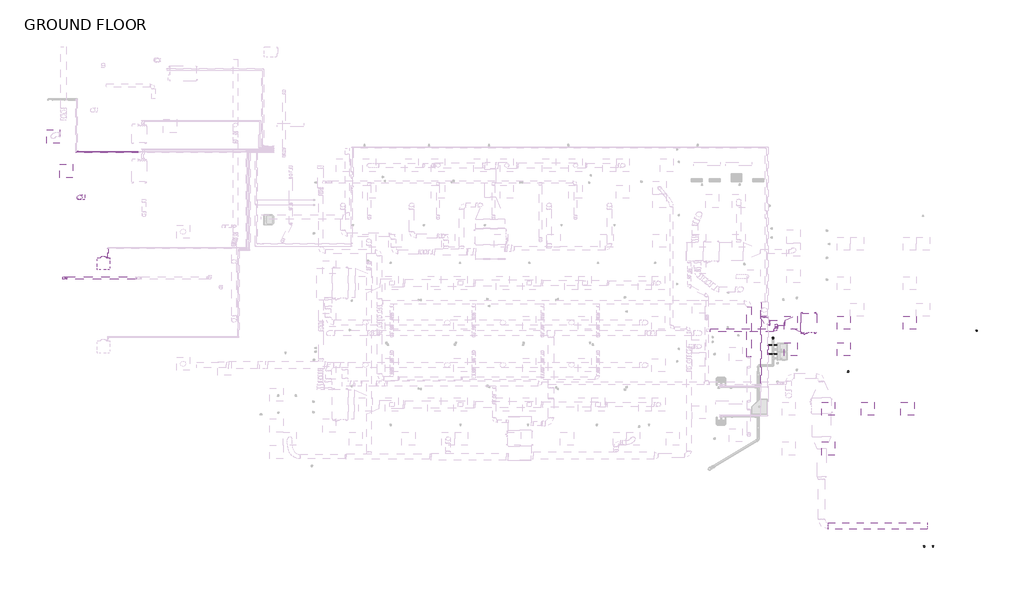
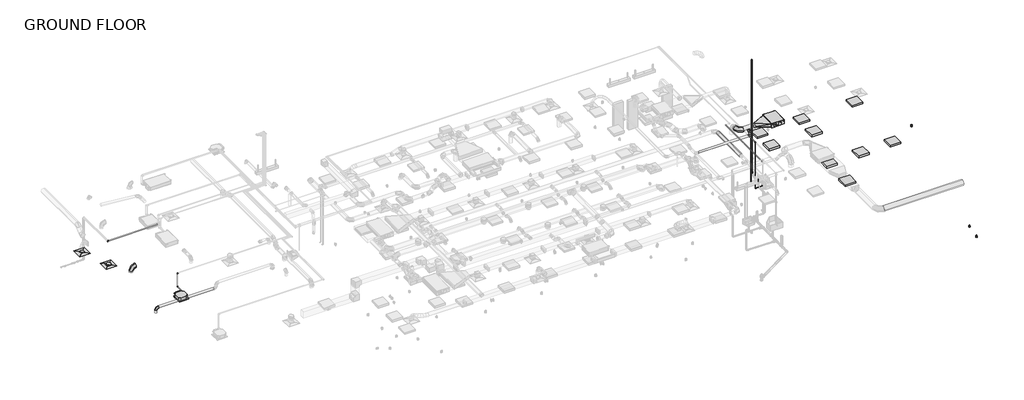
# One storey, part 9 of 20: 15 pipe fittings, 15 pipe segments, 9 duct segments, 9 light fixtures, 6 duct fittings, 4 proxies, 2 air terminals, 2 switching devices.
"""IFC4 building model written with IfcOpenShell, lengths in millimetres."""

from ifc_helpers import new_model, si_unit, point, frame, frame_2d, origin, place, context, project, spatial, circle_curve, trimmed, segment, composite_curve, outline, extrude, transform, mapped, element, save
from components import air_terminal_a1f6e78c, air_terminal_e9020785, mechanical_equipment_7e022f85, mechanical_equipment_2d84379e, duplex_receptacle_countertop_10251bba, rectangular_to_round_transition_angle_45_degree_daff1ed7, round_elbow_1_d_df495868, round_elbow_1_d_6fec3262, round_elbow_1_d_c80420c1, round_takeoff_standard_e4d44d96, troffer_corner_insert_2x2_3lamp_e67c7f8f, bend_pvc_sch_40_dwv_standard_7e7a7e15, elbow_generic_standard_6ceb1649, elbow_generic_standard_c06ac706, elbow_generic_standard_a088f956, elbow_generic_standard_339fed54, tee_generic_standard_d345b28c, transition_generic_standard_18b712a4

model = new_model("IFC4")

# Units and contexts
model_context = context("Model", 3, world=origin())
ifc_project = project(units=[si_unit("LENGTHUNIT", "METRE", prefix="MILLI")], contexts=[model_context])

# Site, building, storey
site = spatial("IfcSite", under=ifc_project)
building = spatial("IfcBuilding", under=site)
storey = spatial("IfcBuildingStorey", under=building, Name="GROUND FLOOR", Elevation=30480.0)

# Air terminals
placement = place(None, origin())
air_terminal_shape = air_terminal_a1f6e78c(model_context)
element("IfcAirTerminal", 1, ObjectType="Supply Diffuser - Rectangular Face Round Neck - Hosted : 24\"x24\" Face 10\" Neck - Hosted", at=placement, inside=storey, context=model_context, shape_type="MappedRepresentation", body=[
    mapped(air_terminal_shape, transform((-18995.0704607, 6554.1945005, 32715.2), x_axis=(-1.0, 0.0, 0.0), y_axis=(0.0, 1.0, 0.0), z_axis=(0.0, 0.0, -1.0))),
])
air_terminal_2_shape = air_terminal_e9020785(model_context)
element("IfcAirTerminal", 2, ObjectType="Supply Diffuser - Rectangular Face Round Neck - Hosted : 24\"x24\" Face 8\" Neck - Hosted", at=placement, inside=storey, context=model_context, shape_type="MappedRepresentation", body=[
    mapped(air_terminal_2_shape, transform((-19604.6704607, 8141.6945005, 32715.2), x_axis=(-1.0, 0.0, 0.0), y_axis=(0.0, 1.0, 0.0), z_axis=(0.0, 0.0, -1.0))),
])

# Proxies
mechanical_equipment_shape = mechanical_equipment_7e022f85(model_context)
element("IfcBuildingElementProxy", 3, Name="PEFY-P-NMAU-E_Medium_Static_Ducted : PEFY-P18NMAU-E", ObjectType="PEFY-P-NMAU-E_Medium_Static_Ducted : PEFY-P18NMAU-E", at=placement, inside=storey, context=model_context, shape_type="MappedRepresentation", body=[
    mapped(mechanical_equipment_shape, transform((15211.0308264, -469.4213942, 33686.75), x_axis=(0.0, -1.0, 0.0), y_axis=(1.0, 0.0, 0.0), z_axis=(0.0, 0.0, 1.0))),
])
mechanical_equipment_2_shape = mechanical_equipment_2d84379e(model_context)
element("IfcBuildingElementProxy", 4, Name="PLFY-P-NCMU-E_4-way_24x24 : PLFY-P12NCMU-E", ObjectType="PLFY-P-NCMU-E_4-way_24x24 : PLFY-P12NCMU-E", at=placement, inside=storey, context=model_context, shape_type="MappedRepresentation", body=[
    mapped(mechanical_equipment_2_shape, transform((-17276.6017107, 2201.5275529, 32715.2), x_axis=(1.0, 0.0, 0.0), y_axis=(0.0, -1.0, 0.0), z_axis=(0.0, 0.0, -1.0))),
])
duplex_receptacle_countertop_shape = duplex_receptacle_countertop_10251bba(model_context)
element("IfcBuildingElementProxy", 5, Name="Duplex Receptacle : Standard", ObjectType="Duplex Receptacle : Standard", at=placement, inside=storey, context=model_context, shape_type="MappedRepresentation", body=[
    mapped(duplex_receptacle_countertop_shape, transform((23025.6405908, -795.9304995, 30937.2), x_axis=(-1.0, 0.0, 0.0), y_axis=(0.0, 0.0, 1.0), z_axis=(0.0, 1.0, 0.0))),
])
element("IfcBuildingElementProxy", 6, Name="Duplex Receptacle : Standard", ObjectType="Duplex Receptacle : Standard", at=placement, inside=storey, context=model_context, shape_type="MappedRepresentation", body=[
    mapped(duplex_receptacle_countertop_shape, transform((21007.7586319, -10752.7304995, 30937.2), x_axis=(-1.0, 0.0, 0.0), y_axis=(0.0, 0.0, 1.0), z_axis=(0.0, 1.0, 0.0))),
])

# Duct fittings
rectangular_to_round_transition_angle_45_degree_shape = rectangular_to_round_transition_angle_45_degree_daff1ed7(model_context)
element("IfcDuctFitting", 7, ObjectType="Rectangular to Round Transition - Angle : 45 Degree", at=placement, inside=storey, context=model_context, shape_type="MappedRepresentation", body=[
    mapped(rectangular_to_round_transition_angle_45_degree_shape, transform((14893.5308264, -459.4091512, 33846.29375), x_axis=(-1.0, 0.0, 0.0), y_axis=(0.0, -1.0, 0.0), z_axis=(0.0, 0.0, 1.0))),
])
round_elbow_1_d_shape = round_elbow_1_d_df495868(model_context)
element("IfcDuctFitting", 8, ObjectType="Round Elbow : 1 D", at=placement, inside=storey, context=model_context, shape_type="MappedRepresentation", body=[
    mapped(round_elbow_1_d_shape, transform((-18385.4704607, 5334.9945005, 33121.6), x_axis=(0.0, 0.0, 1.0), y_axis=(1.0, 0.0, 0.0), z_axis=(0.0, 1.0, 0.0))),
])
round_elbow_1_d_2_shape = round_elbow_1_d_6fec3262(model_context)
element("IfcDuctFitting", 9, ObjectType="Round Elbow : 1 D", at=placement, inside=storey, context=model_context, shape_type="MappedRepresentation", body=[
    mapped(round_elbow_1_d_2_shape, transform((13229.5920393, -459.4091512, 33846.29375), x_axis=(0.0, -1.0, 0.0), y_axis=(1.0, 0.0, 0.0), z_axis=(0.0, 0.0, 1.0))),
])
round_elbow_1_d_3_shape = round_elbow_1_d_c80420c1(model_context)
element("IfcDuctFitting", 10, ObjectType="Round Elbow : 1 D", at=placement, inside=storey, context=model_context, shape_type="MappedRepresentation", body=[
    mapped(round_elbow_1_d_3_shape, transform((-19110.9579607, 1613.8945005, 33121.6), x_axis=(0.0, 0.0, 1.0), y_axis=(1.0, 0.0, 0.0), z_axis=(0.0, 1.0, 0.0))),
])
element("IfcDuctFitting", 11, ObjectType="Round Elbow : 1 D", at=placement, inside=storey, context=model_context, shape_type="MappedRepresentation", body=[
    mapped(round_elbow_1_d_3_shape, transform((13779.8120561, -800.4644888, 33602.9101562), x_axis=(1.0, 0.0, 0.0), y_axis=(0.0, 0.8139900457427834, 0.5808788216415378), z_axis=(0.0, -0.5808788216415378, 0.8139900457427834))),
])
round_takeoff_standard_shape = round_takeoff_standard_e4d44d96(model_context)
element("IfcDuctFitting", 12, ObjectType="Round Takeoff : Standard", at=placement, inside=storey, context=model_context, shape_type="MappedRepresentation", body=[
    mapped(round_takeoff_standard_shape, transform((13779.8120561, -562.785887, 33772.5221397), x_axis=(0.0, -0.8139900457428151, -0.5808788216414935), y_axis=(-1.0000000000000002, 0.0, 0.0), z_axis=(0.0, 0.5808788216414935, -0.8139900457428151))),
])

# Duct segments
element("IfcDuctSegment", 13, ObjectType="Taps / Short Radius", at=placement, inside=storey, context=model_context, shape_type="SweptSolid", body=[
    extrude(outline(composite_curve([segment(trimmed(circle_curve(frame_2d((-18385.4704607, 5334.9945005)), 114.3), [point((-18385.4704607, 5449.2945005))], [point((-18271.1704607, 5334.9945005))], False, "CARTESIAN"), True, "CONTINUOUS"), segment(trimmed(circle_curve(frame_2d((-18385.4704607, 5334.9945005)), 114.3), [point((-18271.1704607, 5334.9945005))], [point((-18385.4704607, 5220.6945005))], False, "CARTESIAN"), True, "CONTINUOUS"), segment(trimmed(circle_curve(frame_2d((-18385.4704607, 5334.9945005)), 114.3), [point((-18385.4704607, 5220.6945005))], [point((-18499.7704607, 5334.9945005))], False, "CARTESIAN"), True, "CONTINUOUS"), segment(trimmed(circle_curve(frame_2d((-18385.4704607, 5334.9945005)), 114.3), [point((-18499.7704607, 5334.9945005))], [point((-18385.4704607, 5449.2945005))], False, "CARTESIAN"), True, "CONTINUOUS")], self_intersect=False)), frame((0.0, 0.0, 32816.8), z_axis=(0.0, 0.0, 1.0), x_axis=(1.0, 0.0, 0.0)), (0.0, 0.0, 1.0), 76.2),
])
element("IfcDuctSegment", 14, ObjectType="Taps / Short Radius", at=placement, inside=storey, context=model_context, shape_type="SweptSolid", body=[
    extrude(outline(composite_curve([segment(trimmed(circle_curve(frame_2d((-19110.9579607, 1613.8945005)), 63.5), [point((-19110.9579607, 1550.3945005))], [point((-19174.4579607, 1613.8945005))], False, "CARTESIAN"), True, "CONTINUOUS"), segment(trimmed(circle_curve(frame_2d((-19110.9579607, 1613.8945005)), 63.5), [point((-19174.4579607, 1613.8945005))], [point((-19110.9579607, 1677.3945005))], False, "CARTESIAN"), True, "CONTINUOUS"), segment(trimmed(circle_curve(frame_2d((-19110.9579607, 1613.8945005)), 63.5), [point((-19110.9579607, 1677.3945005))], [point((-19047.4579607, 1613.8945005))], False, "CARTESIAN"), True, "CONTINUOUS"), segment(trimmed(circle_curve(frame_2d((-19110.9579607, 1613.8945005)), 63.5), [point((-19047.4579607, 1613.8945005))], [point((-19110.9579607, 1550.3945005))], False, "CARTESIAN"), True, "CONTINUOUS")], self_intersect=False)), frame((0.0, 0.0, 32816.8), z_axis=(0.0, 0.0, 1.0), x_axis=(1.0, 0.0, 0.0)), (0.0, 0.0, 1.0), 177.8),
])
element("IfcDuctSegment", 15, ObjectType="Taps / Short Radius", at=placement, inside=storey, context=model_context, shape_type="SweptSolid", body=[
    extrude(outline(composite_curve([segment(trimmed(circle_curve(frame_2d((1613.8945005, 33121.6)), 63.5), [point((1550.3945005, 33121.6))], [point((1613.8945005, 33185.1))], False, "CARTESIAN"), True, "CONTINUOUS"), segment(trimmed(circle_curve(frame_2d((1613.8945005, 33121.6)), 63.5), [point((1613.8945005, 33185.1))], [point((1677.3945005, 33121.6))], False, "CARTESIAN"), True, "CONTINUOUS"), segment(trimmed(circle_curve(frame_2d((1613.8945005, 33121.6)), 63.5), [point((1677.3945005, 33121.6))], [point((1613.8945005, 33058.1))], False, "CARTESIAN"), True, "CONTINUOUS"), segment(trimmed(circle_curve(frame_2d((1613.8945005, 33121.6)), 63.5), [point((1613.8945005, 33058.1))], [point((1550.3945005, 33121.6))], False, "CARTESIAN"), True, "CONTINUOUS")], self_intersect=False)), frame((-18983.9579607, 0.0, 0.0), z_axis=(1.0, 0.0, 0.0), x_axis=(0.0, 1.0, 0.0)), (0.0, 0.0, 1.0), 3200.4),
])
element("IfcDuctSegment", 16, ObjectType="Taps / Short Radius", at=placement, inside=storey, context=model_context, shape_type="SweptSolid", body=[
    extrude(outline(composite_curve([segment(trimmed(circle_curve(frame_2d((-9838.464426, 33750.25)), 152.4), [point((-9990.864426, 33750.25))], [point((-9838.464426, 33902.65))], False, "CARTESIAN"), True, "CONTINUOUS"), segment(trimmed(circle_curve(frame_2d((-9838.464426, 33750.25)), 152.4), [point((-9838.464426, 33902.65))], [point((-9686.064426, 33750.25))], False, "CARTESIAN"), True, "CONTINUOUS"), segment(trimmed(circle_curve(frame_2d((-9838.464426, 33750.25)), 152.4), [point((-9686.064426, 33750.25))], [point((-9838.464426, 33597.85))], False, "CARTESIAN"), True, "CONTINUOUS"), segment(trimmed(circle_curve(frame_2d((-9838.464426, 33750.25)), 152.4), [point((-9838.464426, 33597.85))], [point((-9990.864426, 33750.25))], False, "CARTESIAN"), True, "CONTINUOUS")], self_intersect=False)), frame((16171.5105962, 0.0, 0.0), z_axis=(1.0, 0.0, 0.0), x_axis=(0.0, 1.0, 0.0)), (0.0, 0.0, 1.0), 4572.0),
])
element("IfcDuctSegment", 17, ObjectType="Taps / Short Radius", at=placement, inside=storey, context=model_context, shape_type="SweptSolid", body=[
    extrude(outline(composite_curve([segment(trimmed(circle_curve(frame_2d((33528.0, 12507.2795393)), 101.6), [point((33528.0, 12608.8795393))], [point((33629.6, 12507.2795393))], False, "CARTESIAN"), True, "CONTINUOUS"), segment(trimmed(circle_curve(frame_2d((33528.0, 12507.2795393)), 101.6), [point((33629.6, 12507.2795393))], [point((33528.0, 12405.6795393))], False, "CARTESIAN"), True, "CONTINUOUS"), segment(trimmed(circle_curve(frame_2d((33528.0, 12507.2795393)), 101.6), [point((33528.0, 12405.6795393))], [point((33426.4, 12507.2795393))], False, "CARTESIAN"), True, "CONTINUOUS"), segment(trimmed(circle_curve(frame_2d((33528.0, 12507.2795393)), 101.6), [point((33426.4, 12507.2795393))], [point((33528.0, 12608.8795393))], False, "CARTESIAN"), True, "CONTINUOUS")], self_intersect=False)), frame((0.0, -2017.0523624, 0.0), z_axis=(0.0, 1.0, 0.0), x_axis=(0.0, 0.0, 1.0)), (0.0, 0.0, 1.0), 2307.1938554),
])
element("IfcDuctSegment", 18, ObjectType="Taps / Short Radius", at=placement, inside=storey, context=model_context, shape_type="SweptSolid", body=[
    extrude(outline(composite_curve([segment(trimmed(circle_curve(frame_2d((-459.4091512, 33846.29375)), 127.0), [point((-332.4091512, 33846.29375))], [point((-459.4091512, 33719.29375))], False, "CARTESIAN"), True, "CONTINUOUS"), segment(trimmed(circle_curve(frame_2d((-459.4091512, 33846.29375)), 127.0), [point((-459.4091512, 33719.29375))], [point((-586.4091512, 33846.29375))], False, "CARTESIAN"), True, "CONTINUOUS"), segment(trimmed(circle_curve(frame_2d((-459.4091512, 33846.29375)), 127.0), [point((-586.4091512, 33846.29375))], [point((-459.4091512, 33973.29375))], False, "CARTESIAN"), True, "CONTINUOUS"), segment(trimmed(circle_curve(frame_2d((-459.4091512, 33846.29375)), 127.0), [point((-459.4091512, 33973.29375))], [point((-332.4091512, 33846.29375))], False, "CARTESIAN"), True, "CONTINUOUS")], self_intersect=False)), frame((13483.5920393, 0.0, 0.0), z_axis=(1.0, 0.0, 0.0), x_axis=(0.0, 1.0, 0.0)), (0.0, 0.0, 1.0), 683.6679034),
])
element("IfcDuctSegment", 19, ObjectType="Taps / Short Radius", at=placement, inside=storey, context=model_context, shape_type="SweptSolid", body=[
    extrude(outline(composite_curve([segment(trimmed(circle_curve(frame_2d((33846.29375, 13229.5920393)), 127.0), [point((33846.29375, 13102.5920393))], [point((33719.29375, 13229.5920393))], False, "CARTESIAN"), True, "CONTINUOUS"), segment(trimmed(circle_curve(frame_2d((33846.29375, 13229.5920393)), 127.0), [point((33719.29375, 13229.5920393))], [point((33846.29375, 13356.5920393))], False, "CARTESIAN"), True, "CONTINUOUS"), segment(trimmed(circle_curve(frame_2d((33846.29375, 13229.5920393)), 127.0), [point((33846.29375, 13356.5920393))], [point((33973.29375, 13229.5920393))], False, "CARTESIAN"), True, "CONTINUOUS"), segment(trimmed(circle_curve(frame_2d((33846.29375, 13229.5920393)), 127.0), [point((33973.29375, 13229.5920393))], [point((33846.29375, 13102.5920393))], False, "CARTESIAN"), True, "CONTINUOUS")], self_intersect=False)), frame((0.0, -205.4091512, 0.0), z_axis=(0.0, 1.0, 0.0), x_axis=(0.0, 0.0, 1.0)), (0.0, 0.0, 1.0), 85.7536517),
])
element("IfcDuctSegment", 20, ObjectType="Taps / Short Radius", at=placement, inside=storey, context=model_context, shape_type="SweptSolid", body=[
    extrude(outline(composite_curve([segment(trimmed(circle_curve(frame_2d((-800.4644888, 33602.9101562)), 63.5), [point((-736.9644888, 33602.9101562))], [point((-800.4644888, 33539.4101562))], False, "CARTESIAN"), True, "CONTINUOUS"), segment(trimmed(circle_curve(frame_2d((-800.4644888, 33602.9101562)), 63.5), [point((-800.4644888, 33539.4101562))], [point((-863.9644888, 33602.9101562))], False, "CARTESIAN"), True, "CONTINUOUS"), segment(trimmed(circle_curve(frame_2d((-800.4644888, 33602.9101562)), 63.5), [point((-863.9644888, 33602.9101562))], [point((-800.4644888, 33666.4101562))], False, "CARTESIAN"), True, "CONTINUOUS"), segment(trimmed(circle_curve(frame_2d((-800.4644888, 33602.9101562)), 63.5), [point((-800.4644888, 33666.4101562))], [point((-736.9644888, 33602.9101562))], False, "CARTESIAN"), True, "CONTINUOUS")], self_intersect=False)), frame((10725.6577502, 0.0, 0.0), z_axis=(1.0, 0.0, 0.0), x_axis=(0.0, 1.0, 0.0)), (0.0, 0.0, 1.0), 2927.1543058),
])
element("IfcDuctSegment", 21, ObjectType="Taps / Short Radius", at=placement, inside=storey, context=model_context, shape_type="SweptSolid", body=[
    extrude(outline(composite_curve([segment(trimmed(circle_curve(frame_2d((0.0, -63.5)), 63.5), [point((-63.5, -63.5))], [point((0.0, 0.0))], False, "CARTESIAN"), True, "CONTINUOUS"), segment(trimmed(circle_curve(frame_2d((0.0, -63.5)), 63.5), [point((0.0, 0.0))], [point((63.5, -63.5))], False, "CARTESIAN"), True, "CONTINUOUS"), segment(trimmed(circle_curve(frame_2d((0.0, -63.5)), 63.5), [point((63.5, -63.5))], [point((0.0, -127.0))], False, "CARTESIAN"), True, "CONTINUOUS"), segment(trimmed(circle_curve(frame_2d((0.0, -63.5)), 63.5), [point((0.0, -127.0))], [point((-63.5, -63.5))], False, "CARTESIAN"), True, "CONTINUOUS")], self_intersect=False)), frame((13779.8120561, -660.2019478, 33624.9933987), z_axis=(0.0, 0.8139900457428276, 0.5808788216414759), x_axis=(1.0, 0.0, 0.0)), (0.0, 0.0, 1.0), 63.392025),
])

# Light fixtures
troffer_corner_insert_2x2_3lamp_shape = troffer_corner_insert_2x2_3lamp_e67c7f8f(model_context)
element("IfcLightFixture", 22, ObjectType="Troffer Corner Insert : 2x2 3Lamp", at=placement, inside=storey, context=model_context, shape_type="MappedRepresentation", body=[
    mapped(troffer_corner_insert_2x2_3lamp_shape, transform((14448.7920393, -457.7929995, 30784.8), x_axis=(1.0, 0.0, 0.0), y_axis=(0.0, 1.0, 0.0), z_axis=(0.0, 0.0, 1.0))),
])
element("IfcLightFixture", 23, ObjectType="Troffer Corner Insert : 2x2 3Lamp", at=placement, inside=storey, context=model_context, shape_type="MappedRepresentation", body=[
    mapped(troffer_corner_insert_2x2_3lamp_shape, transform((16887.1920393, -457.7929995, 30784.8), x_axis=(1.0, 0.0, 0.0), y_axis=(0.0, 1.0, 0.0), z_axis=(0.0, 0.0, 1.0))),
])
element("IfcLightFixture", 24, ObjectType="Troffer Corner Insert : 2x2 3Lamp", at=placement, inside=storey, context=model_context, shape_type="MappedRepresentation", body=[
    mapped(troffer_corner_insert_2x2_3lamp_shape, transform((19935.1920393, -457.7929995, 30784.8), x_axis=(1.0, 0.0, 0.0), y_axis=(0.0, 1.0, 0.0), z_axis=(0.0, 0.0, 1.0))),
])
element("IfcLightFixture", 25, ObjectType="Troffer Corner Insert : 2x2 3Lamp", at=placement, inside=storey, context=model_context, shape_type="MappedRepresentation", body=[
    mapped(troffer_corner_insert_2x2_3lamp_shape, transform((14448.7920393, -1676.9929995, 30784.8), x_axis=(1.0, 0.0, 0.0), y_axis=(0.0, 1.0, 0.0), z_axis=(0.0, 0.0, 1.0))),
])
element("IfcLightFixture", 26, ObjectType="Troffer Corner Insert : 2x2 3Lamp", at=placement, inside=storey, context=model_context, shape_type="MappedRepresentation", body=[
    mapped(troffer_corner_insert_2x2_3lamp_shape, transform((16887.1920393, -1676.9929995, 30784.8), x_axis=(1.0, 0.0, 0.0), y_axis=(0.0, 1.0, 0.0), z_axis=(0.0, 0.0, 1.0))),
])
element("IfcLightFixture", 27, ObjectType="Troffer Corner Insert : 2x2 3Lamp", at=placement, inside=storey, context=model_context, shape_type="MappedRepresentation", body=[
    mapped(troffer_corner_insert_2x2_3lamp_shape, transform((16174.4045393, -4424.9554995, 30784.8), x_axis=(1.0, 0.0, 0.0), y_axis=(0.0, 1.0, 0.0), z_axis=(0.0, 0.0, 1.0))),
])
element("IfcLightFixture", 28, ObjectType="Troffer Corner Insert : 2x2 3Lamp", at=placement, inside=storey, context=model_context, shape_type="MappedRepresentation", body=[
    mapped(troffer_corner_insert_2x2_3lamp_shape, transform((16174.4045393, -6253.7554995, 30784.8), x_axis=(1.0, 0.0, 0.0), y_axis=(0.0, 1.0, 0.0), z_axis=(0.0, 0.0, 1.0))),
])
element("IfcLightFixture", 29, ObjectType="Troffer Corner Insert : 2x2 3Lamp", at=placement, inside=storey, context=model_context, shape_type="MappedRepresentation", body=[
    mapped(troffer_corner_insert_2x2_3lamp_shape, transform((18003.2045393, -4424.9554995, 30784.8), x_axis=(1.0, 0.0, 0.0), y_axis=(0.0, 1.0, 0.0), z_axis=(0.0, 0.0, 1.0))),
])
element("IfcLightFixture", 30, ObjectType="Troffer Corner Insert : 2x2 3Lamp", at=placement, inside=storey, context=model_context, shape_type="MappedRepresentation", body=[
    mapped(troffer_corner_insert_2x2_3lamp_shape, transform((19832.0045393, -4424.9554995, 30784.8), x_axis=(1.0, 0.0, 0.0), y_axis=(0.0, 1.0, 0.0), z_axis=(0.0, 0.0, 1.0))),
])

# Pipe fittings
bend_pvc_sch_40_dwv_standard_shape = bend_pvc_sch_40_dwv_standard_7e7a7e15(model_context)
element("IfcPipeFitting", 31, ObjectType="Bend - PVC - Sch 40 - DWV : Standard", at=placement, inside=storey, context=model_context, shape_type="MappedRepresentation", body=[
    mapped(bend_pvc_sch_40_dwv_standard_shape, transform((13624.8795393, -1146.9148781, 31598.3359555), x_axis=(0.0, 0.8531356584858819, 0.5216891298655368), y_axis=(0.0, -0.5216891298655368, 0.8531356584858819), z_axis=(1.0, 0.0, 0.0))),
])
elbow_generic_standard_shape = elbow_generic_standard_6ceb1649(model_context)
element("IfcPipeFitting", 32, ObjectType="Elbow - Generic : Standard", at=placement, inside=storey, context=model_context, shape_type="MappedRepresentation", body=[
    mapped(elbow_generic_standard_shape, transform((13383.5569177, -1891.3054995, 31150.71875), x_axis=(0.0, 0.0, -1.0), y_axis=(1.0, 0.0, 0.0), z_axis=(0.0, -1.0, 0.0))),
])
element("IfcPipeFitting", 33, ObjectType="Elbow - Generic : Standard", at=placement, inside=storey, context=model_context, shape_type="MappedRepresentation", body=[
    mapped(elbow_generic_standard_shape, transform((13789.9797527, -1484.9054995, 31303.11875), x_axis=(-1.0, 0.0, 0.0), y_axis=(0.0, 0.0, -1.0), z_axis=(0.0, -1.0, 0.0))),
])
element("IfcPipeFitting", 34, ObjectType="Elbow - Generic : Standard", at=placement, inside=storey, context=model_context, shape_type="MappedRepresentation", body=[
    mapped(elbow_generic_standard_shape, transform((13383.5569177, -1484.9054995, 31150.71875), x_axis=(0.0, 0.0, -1.0), y_axis=(1.0, 0.0, 0.0), z_axis=(0.0, -1.0, 0.0))),
])
element("IfcPipeFitting", 35, ObjectType="Elbow - Generic : Standard", at=placement, inside=storey, context=model_context, shape_type="MappedRepresentation", body=[
    mapped(elbow_generic_standard_shape, transform((13789.9797527, -1484.9054995, 31150.71875), x_axis=(0.0, 0.0, -1.0), y_axis=(-1.0, 0.0, 0.0), z_axis=(0.0, 1.0, 0.0))),
])
elbow_generic_standard_2_shape = elbow_generic_standard_c06ac706(model_context)
element("IfcPipeFitting", 36, ObjectType="Elbow - Generic : Standard", at=placement, inside=storey, context=model_context, shape_type="MappedRepresentation", body=[
    mapped(elbow_generic_standard_2_shape, transform((-17078.1642107, 2984.2674809, 32865.2187602), x_axis=(0.0, 1.0, 0.0), y_axis=(0.0, 0.0, 1.0), z_axis=(1.0, 0.0, 0.0))),
])
element("IfcPipeFitting", 37, ObjectType="Elbow - Generic : Standard", at=placement, inside=storey, context=model_context, shape_type="MappedRepresentation", body=[
    mapped(elbow_generic_standard_2_shape, transform((-17078.1642107, 2984.2674809, 33680.4), x_axis=(0.0, 0.0, 1.0), y_axis=(1.0, 0.0, 0.0), z_axis=(0.0, 1.0, 0.0))),
])
element("IfcPipeFitting", 38, ObjectType="Elbow - Generic : Standard", at=placement, inside=storey, context=model_context, shape_type="MappedRepresentation", body=[
    mapped(elbow_generic_standard_2_shape, transform((-18495.0079607, 7460.2718518, 33436.8475147), x_axis=(0.0, -1.0, 0.0), y_axis=(1.0, 0.0, 0.0), z_axis=(0.0, 0.0, 1.0))),
])
element("IfcPipeFitting", 39, ObjectType="Elbow - Generic : Standard", at=placement, inside=storey, context=model_context, shape_type="MappedRepresentation", body=[
    mapped(elbow_generic_standard_2_shape, transform((-18552.1579607, 7415.8218518, 33436.8475147), x_axis=(0.0, -1.0, 0.0), y_axis=(1.0, 0.0, 0.0), z_axis=(0.0, 0.0, 1.0))),
])
elbow_generic_standard_3_shape = elbow_generic_standard_a088f956(model_context)
element("IfcPipeFitting", 40, ObjectType="Elbow - Generic : Standard", at=placement, inside=storey, context=model_context, shape_type="MappedRepresentation", body=[
    mapped(elbow_generic_standard_3_shape, transform((-17074.9892107, 3013.8265677, 33680.4), x_axis=(0.0, 0.0, 1.0), y_axis=(1.0, 0.0, 0.0), z_axis=(0.0, 1.0, 0.0))),
])
elbow_generic_standard_4_shape = elbow_generic_standard_339fed54(model_context)
element("IfcPipeFitting", 41, ObjectType="Elbow - Generic : Standard", at=placement, inside=storey, context=model_context, shape_type="MappedRepresentation", body=[
    mapped(elbow_generic_standard_4_shape, transform((-17074.9892107, 3013.8265677, 32835.85), x_axis=(0.0, 0.9999999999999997, -2.6880093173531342e-08), y_axis=(0.0, 2.6880093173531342e-08, 0.9999999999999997), z_axis=(1.0, 0.0, 0.0))),
])
tee_generic_standard_shape = tee_generic_standard_d345b28c(model_context)
element("IfcPipeFitting", 42, ObjectType="Tee - Generic : Standard", at=placement, inside=storey, context=model_context, shape_type="MappedRepresentation", body=[
    mapped(tee_generic_standard_shape, transform((13383.5569177, -1891.3054995, 33978.2831664), x_axis=(0.0, -1.0, 0.0), y_axis=(0.0, 0.0, 1.0), z_axis=(-1.0, 0.0, 0.0))),
])
element("IfcPipeFitting", 43, ObjectType="Tee - Generic : Standard", at=placement, inside=storey, context=model_context, shape_type="MappedRepresentation", body=[
    mapped(tee_generic_standard_shape, transform((13383.5569177, -1484.9054995, 33978.2831664), x_axis=(0.0, -1.0, 0.0), y_axis=(0.0, 0.0, 1.0), z_axis=(-1.0, 0.0, 0.0))),
])
transition_generic_standard_shape = transition_generic_standard_18b712a4(model_context)
element("IfcPipeFitting", 44, ObjectType="Transition - Generic : Standard", at=placement, inside=storey, context=model_context, shape_type="MappedRepresentation", body=[
    mapped(transition_generic_standard_shape, transform((13383.5569177, -1891.3054995, 33951.2956664), x_axis=(0.0, 0.0, -1.0), y_axis=(0.0, 1.0, 0.0), z_axis=(1.0, 0.0, 0.0))),
])
element("IfcPipeFitting", 45, ObjectType="Transition - Generic : Standard", at=placement, inside=storey, context=model_context, shape_type="MappedRepresentation", body=[
    mapped(transition_generic_standard_shape, transform((13383.5569177, -1484.9054995, 33951.2956664), x_axis=(0.0, 0.0, -1.0), y_axis=(0.0, 1.0, 0.0), z_axis=(1.0, 0.0, 0.0))),
])

# Pipe segments
element("IfcPipeSegment", 46, ObjectType="Copper Tubing", at=placement, inside=storey, context=model_context, shape_type="SweptSolid", body=[
    extrude(outline(composite_curve([segment(trimmed(circle_curve(frame_2d((32835.8500102, -17074.9892107)), 7.9375), [point((32835.8500102, -17067.0517107))], [point((32843.7875102, -17074.9892107))], False, "CARTESIAN"), True, "CONTINUOUS"), segment(trimmed(circle_curve(frame_2d((32835.8500102, -17074.9892107)), 7.9375), [point((32843.7875102, -17074.9892107))], [point((32835.8500102, -17082.9267107))], False, "CARTESIAN"), True, "CONTINUOUS"), segment(trimmed(circle_curve(frame_2d((32835.8500102, -17074.9892107)), 7.9375), [point((32835.8500102, -17082.9267107))], [point((32827.9125102, -17074.9892107))], False, "CARTESIAN"), True, "CONTINUOUS"), segment(trimmed(circle_curve(frame_2d((32835.8500102, -17074.9892107)), 7.9375), [point((32827.9125102, -17074.9892107))], [point((32835.8500102, -17067.0517107))], False, "CARTESIAN"), True, "CONTINUOUS")], self_intersect=False)), frame((0.0, 2555.1048442, 0.0), z_axis=(0.0, 1.0, 0.0), x_axis=(0.0, 0.0, 1.0)), (0.0, 0.0, 1.0), 444.4342232),
])
element("IfcPipeSegment", 47, ObjectType="Copper Tubing", at=placement, inside=storey, context=model_context, shape_type="SweptSolid", body=[
    extrude(outline(composite_curve([segment(trimmed(circle_curve(frame_2d((-17074.9892107, 3013.8265677)), 7.9375), [point((-17082.9267107, 3013.8265677))], [point((-17074.9892107, 3021.7640677))], False, "CARTESIAN"), True, "CONTINUOUS"), segment(trimmed(circle_curve(frame_2d((-17074.9892107, 3013.8265677)), 7.9375), [point((-17074.9892107, 3021.7640677))], [point((-17067.0517107, 3013.8265677))], False, "CARTESIAN"), True, "CONTINUOUS"), segment(trimmed(circle_curve(frame_2d((-17074.9892107, 3013.8265677)), 7.9375), [point((-17067.0517107, 3013.8265677))], [point((-17074.9892107, 3005.8890677))], False, "CARTESIAN"), True, "CONTINUOUS"), segment(trimmed(circle_curve(frame_2d((-17074.9892107, 3013.8265677)), 7.9375), [point((-17074.9892107, 3005.8890677))], [point((-17082.9267107, 3013.8265677))], False, "CARTESIAN"), True, "CONTINUOUS")], self_intersect=False)), frame((0.0, 0.0, 32850.1375004), z_axis=(0.0, 0.0, 1.0), x_axis=(1.0, 0.0, 0.0)), (0.0, 0.0, 1.0), 815.9749996),
])
element("IfcPipeSegment", 48, ObjectType="Copper Tubing", at=placement, inside=storey, context=model_context, shape_type="SweptSolid", body=[
    extrude(outline(composite_curve([segment(trimmed(circle_curve(frame_2d((32865.2187602, -17078.1642107)), 14.2875), [point((32865.2187602, -17063.8767107))], [point((32879.5062602, -17078.1642107))], False, "CARTESIAN"), True, "CONTINUOUS"), segment(trimmed(circle_curve(frame_2d((32865.2187602, -17078.1642107)), 14.2875), [point((32879.5062602, -17078.1642107))], [point((32865.2187602, -17092.4517107))], False, "CARTESIAN"), True, "CONTINUOUS"), segment(trimmed(circle_curve(frame_2d((32865.2187602, -17078.1642107)), 14.2875), [point((32865.2187602, -17092.4517107))], [point((32850.9312602, -17078.1642107))], False, "CARTESIAN"), True, "CONTINUOUS"), segment(trimmed(circle_curve(frame_2d((32865.2187602, -17078.1642107)), 14.2875), [point((32850.9312602, -17078.1642107))], [point((32865.2187602, -17063.8767107))], False, "CARTESIAN"), True, "CONTINUOUS")], self_intersect=False)), frame((0.0, 2555.1048442, 0.0), z_axis=(0.0, 1.0, 0.0), x_axis=(0.0, 0.0, 1.0)), (0.0, 0.0, 1.0), 408.5251368),
])
element("IfcPipeSegment", 49, ObjectType="Copper Tubing", at=placement, inside=storey, context=model_context, shape_type="SweptSolid", body=[
    extrude(outline(composite_curve([segment(trimmed(circle_curve(frame_2d((-17078.1642107, 2984.2674809)), 14.2875), [point((-17092.4517107, 2984.2674809))], [point((-17078.1642107, 2998.5549809))], False, "CARTESIAN"), True, "CONTINUOUS"), segment(trimmed(circle_curve(frame_2d((-17078.1642107, 2984.2674809)), 14.2875), [point((-17078.1642107, 2998.5549809))], [point((-17063.8767107, 2984.2674809))], False, "CARTESIAN"), True, "CONTINUOUS"), segment(trimmed(circle_curve(frame_2d((-17078.1642107, 2984.2674809)), 14.2875), [point((-17063.8767107, 2984.2674809))], [point((-17078.1642107, 2969.9799809))], False, "CARTESIAN"), True, "CONTINUOUS"), segment(trimmed(circle_curve(frame_2d((-17078.1642107, 2984.2674809)), 14.2875), [point((-17078.1642107, 2969.9799809))], [point((-17092.4517107, 2984.2674809))], False, "CARTESIAN"), True, "CONTINUOUS")], self_intersect=False)), frame((0.0, 0.0, 32885.8562602), z_axis=(0.0, 0.0, 1.0), x_axis=(1.0, 0.0, 0.0)), (0.0, 0.0, 1.0), 773.9062398),
])
element("IfcPipeSegment", 50, ObjectType="Copper Tubing", at=placement, inside=storey, context=model_context, shape_type="SweptSolid", body=[
    extrude(outline(composite_curve([segment(trimmed(circle_curve(frame_2d((7460.2718518, 33436.8475147)), 14.2875), [point((7445.9843518, 33436.8475147))], [point((7460.2718518, 33451.1350147))], False, "CARTESIAN"), True, "CONTINUOUS"), segment(trimmed(circle_curve(frame_2d((7460.2718518, 33436.8475147)), 14.2875), [point((7460.2718518, 33451.1350147))], [point((7474.5593518, 33436.8475147))], False, "CARTESIAN"), True, "CONTINUOUS"), segment(trimmed(circle_curve(frame_2d((7460.2718518, 33436.8475147)), 14.2875), [point((7474.5593518, 33436.8475147))], [point((7460.2718518, 33422.5600147))], False, "CARTESIAN"), True, "CONTINUOUS"), segment(trimmed(circle_curve(frame_2d((7460.2718518, 33436.8475147)), 14.2875), [point((7460.2718518, 33422.5600147))], [point((7445.9843518, 33436.8475147))], False, "CARTESIAN"), True, "CONTINUOUS")], self_intersect=False)), frame((-18474.3704607, 0.0, 0.0), z_axis=(1.0, 0.0, 0.0), x_axis=(0.0, 1.0, 0.0)), (0.0, 0.0, 1.0), 2850.35625),
])
element("IfcPipeSegment", 51, ObjectType="Copper Tubing", at=placement, inside=storey, context=model_context, shape_type="SweptSolid", body=[
    extrude(outline(composite_curve([segment(trimmed(circle_curve(frame_2d((7415.8218518, 33436.8475147)), 14.2875), [point((7401.5343518, 33436.8475147))], [point((7415.8218518, 33451.1350147))], False, "CARTESIAN"), True, "CONTINUOUS"), segment(trimmed(circle_curve(frame_2d((7415.8218518, 33436.8475147)), 14.2875), [point((7415.8218518, 33451.1350147))], [point((7430.1093518, 33436.8475147))], False, "CARTESIAN"), True, "CONTINUOUS"), segment(trimmed(circle_curve(frame_2d((7415.8218518, 33436.8475147)), 14.2875), [point((7430.1093518, 33436.8475147))], [point((7415.8218518, 33422.5600147))], False, "CARTESIAN"), True, "CONTINUOUS"), segment(trimmed(circle_curve(frame_2d((7415.8218518, 33436.8475147)), 14.2875), [point((7415.8218518, 33422.5600147))], [point((7401.5343518, 33436.8475147))], False, "CARTESIAN"), True, "CONTINUOUS")], self_intersect=False)), frame((-18531.5204607, 0.0, 0.0), z_axis=(1.0, 0.0, 0.0), x_axis=(0.0, 1.0, 0.0)), (0.0, 0.0, 1.0), 2907.50625),
])
element("IfcPipeSegment", 52, ObjectType="Copper Tubing", at=placement, inside=storey, context=model_context, shape_type="SweptSolid", body=[
    extrude(outline(composite_curve([segment(trimmed(circle_curve(frame_2d((-1891.3054995, 31150.71875)), 6.35), [point((-1897.6554995, 31150.71875))], [point((-1891.3054995, 31157.06875))], False, "CARTESIAN"), True, "CONTINUOUS"), segment(trimmed(circle_curve(frame_2d((-1891.3054995, 31150.71875)), 6.35), [point((-1891.3054995, 31157.06875))], [point((-1884.9554995, 31150.71875))], False, "CARTESIAN"), True, "CONTINUOUS"), segment(trimmed(circle_curve(frame_2d((-1891.3054995, 31150.71875)), 6.35), [point((-1884.9554995, 31150.71875))], [point((-1891.3054995, 31144.36875))], False, "CARTESIAN"), True, "CONTINUOUS"), segment(trimmed(circle_curve(frame_2d((-1891.3054995, 31150.71875)), 6.35), [point((-1891.3054995, 31144.36875))], [point((-1897.6554995, 31150.71875))], False, "CARTESIAN"), True, "CONTINUOUS")], self_intersect=False)), frame((13396.2569177, 0.0, 0.0), z_axis=(1.0, 0.0, 0.0), x_axis=(0.0, 1.0, 0.0)), (0.0, 0.0, 1.0), 431.8226216),
])
element("IfcPipeSegment", 53, ObjectType="Copper Tubing", at=placement, inside=storey, context=model_context, shape_type="SweptSolid", body=[
    extrude(outline(composite_curve([segment(trimmed(circle_curve(frame_2d((13383.5569177, -1891.3054995)), 6.35), [point((13389.9069177, -1891.3054995))], [point((13383.5569177, -1897.6554995))], False, "CARTESIAN"), True, "CONTINUOUS"), segment(trimmed(circle_curve(frame_2d((13383.5569177, -1891.3054995)), 6.35), [point((13383.5569177, -1897.6554995))], [point((13377.2069177, -1891.3054995))], False, "CARTESIAN"), True, "CONTINUOUS"), segment(trimmed(circle_curve(frame_2d((13383.5569177, -1891.3054995)), 6.35), [point((13377.2069177, -1891.3054995))], [point((13383.5569177, -1884.9554995))], False, "CARTESIAN"), True, "CONTINUOUS"), segment(trimmed(circle_curve(frame_2d((13383.5569177, -1891.3054995)), 6.35), [point((13383.5569177, -1884.9554995))], [point((13389.9069177, -1891.3054995))], False, "CARTESIAN"), True, "CONTINUOUS")], self_intersect=False)), frame((0.0, 0.0, 31163.41875), z_axis=(0.0, 0.0, 1.0), x_axis=(1.0, 0.0, 0.0)), (0.0, 0.0, 1.0), 2780.7331664),
])
element("IfcPipeSegment", 54, ObjectType="Copper Tubing", at=placement, inside=storey, context=model_context, shape_type="SweptSolid", body=[
    extrude(outline(composite_curve([segment(trimmed(circle_curve(frame_2d((33978.2831664, 13383.5569177)), 14.2875), [point((33978.2831664, 13369.2694177))], [point((33963.9956664, 13383.5569177))], False, "CARTESIAN"), True, "CONTINUOUS"), segment(trimmed(circle_curve(frame_2d((33978.2831664, 13383.5569177)), 14.2875), [point((33963.9956664, 13383.5569177))], [point((33978.2831664, 13397.8444177))], False, "CARTESIAN"), True, "CONTINUOUS"), segment(trimmed(circle_curve(frame_2d((33978.2831664, 13383.5569177)), 14.2875), [point((33978.2831664, 13397.8444177))], [point((33992.5706664, 13383.5569177))], False, "CARTESIAN"), True, "CONTINUOUS"), segment(trimmed(circle_curve(frame_2d((33978.2831664, 13383.5569177)), 14.2875), [point((33992.5706664, 13383.5569177))], [point((33978.2831664, 13369.2694177))], False, "CARTESIAN"), True, "CONTINUOUS")], self_intersect=False)), frame((0.0, -1864.3179995, 0.0), z_axis=(0.0, 1.0, 0.0), x_axis=(0.0, 0.0, 1.0)), (0.0, 0.0, 1.0), 352.425),
])
element("IfcPipeSegment", 55, ObjectType="Copper Tubing", at=placement, inside=storey, context=model_context, shape_type="SweptSolid", body=[
    extrude(outline(composite_curve([segment(trimmed(circle_curve(frame_2d((-1484.9054995, 31150.71875)), 6.35), [point((-1491.2554995, 31150.71875))], [point((-1484.9054995, 31157.06875))], False, "CARTESIAN"), True, "CONTINUOUS"), segment(trimmed(circle_curve(frame_2d((-1484.9054995, 31150.71875)), 6.35), [point((-1484.9054995, 31157.06875))], [point((-1478.5554995, 31150.71875))], False, "CARTESIAN"), True, "CONTINUOUS"), segment(trimmed(circle_curve(frame_2d((-1484.9054995, 31150.71875)), 6.35), [point((-1478.5554995, 31150.71875))], [point((-1484.9054995, 31144.36875))], False, "CARTESIAN"), True, "CONTINUOUS"), segment(trimmed(circle_curve(frame_2d((-1484.9054995, 31150.71875)), 6.35), [point((-1484.9054995, 31144.36875))], [point((-1491.2554995, 31150.71875))], False, "CARTESIAN"), True, "CONTINUOUS")], self_intersect=False)), frame((13396.2569177, 0.0, 0.0), z_axis=(1.0, 0.0, 0.0), x_axis=(0.0, 1.0, 0.0)), (0.0, 0.0, 1.0), 381.0228349),
])
element("IfcPipeSegment", 56, ObjectType="Copper Tubing", at=placement, inside=storey, context=model_context, shape_type="SweptSolid", body=[
    extrude(outline(composite_curve([segment(trimmed(circle_curve(frame_2d((-1484.9054995, 31303.11875)), 6.35), [point((-1478.5554995, 31303.11875))], [point((-1484.9054995, 31296.76875))], False, "CARTESIAN"), True, "CONTINUOUS"), segment(trimmed(circle_curve(frame_2d((-1484.9054995, 31303.11875)), 6.35), [point((-1484.9054995, 31296.76875))], [point((-1491.2554995, 31303.11875))], False, "CARTESIAN"), True, "CONTINUOUS"), segment(trimmed(circle_curve(frame_2d((-1484.9054995, 31303.11875)), 6.35), [point((-1491.2554995, 31303.11875))], [point((-1484.9054995, 31309.46875))], False, "CARTESIAN"), True, "CONTINUOUS"), segment(trimmed(circle_curve(frame_2d((-1484.9054995, 31303.11875)), 6.35), [point((-1484.9054995, 31309.46875))], [point((-1478.5554995, 31303.11875))], False, "CARTESIAN"), True, "CONTINUOUS")], self_intersect=False)), frame((13802.6797527, 0.0, 0.0), z_axis=(1.0, 0.0, 0.0), x_axis=(0.0, 1.0, 0.0)), (0.0, 0.0, 1.0), 25.3997866),
])
element("IfcPipeSegment", 57, ObjectType="Copper Tubing", at=placement, inside=storey, context=model_context, shape_type="SweptSolid", body=[
    extrude(outline(composite_curve([segment(trimmed(circle_curve(frame_2d((13789.9797527, -1484.9054995)), 6.35), [point((13796.3297527, -1484.9054995))], [point((13789.9797527, -1491.2554995))], False, "CARTESIAN"), True, "CONTINUOUS"), segment(trimmed(circle_curve(frame_2d((13789.9797527, -1484.9054995)), 6.35), [point((13789.9797527, -1491.2554995))], [point((13783.6297527, -1484.9054995))], False, "CARTESIAN"), True, "CONTINUOUS"), segment(trimmed(circle_curve(frame_2d((13789.9797527, -1484.9054995)), 6.35), [point((13783.6297527, -1484.9054995))], [point((13789.9797527, -1478.5554995))], False, "CARTESIAN"), True, "CONTINUOUS"), segment(trimmed(circle_curve(frame_2d((13789.9797527, -1484.9054995)), 6.35), [point((13789.9797527, -1478.5554995))], [point((13796.3297527, -1484.9054995))], False, "CARTESIAN"), True, "CONTINUOUS")], self_intersect=False)), frame((0.0, 0.0, 31163.41875), z_axis=(0.0, 0.0, 1.0), x_axis=(1.0, 0.0, 0.0)), (0.0, 0.0, 1.0), 127.0),
])
element("IfcPipeSegment", 58, ObjectType="Copper Tubing", at=placement, inside=storey, context=model_context, shape_type="SweptSolid", body=[
    extrude(outline(composite_curve([segment(trimmed(circle_curve(frame_2d((13383.5569177, -1484.9054995)), 6.35), [point((13389.9069177, -1484.9054995))], [point((13383.5569177, -1491.2554995))], False, "CARTESIAN"), True, "CONTINUOUS"), segment(trimmed(circle_curve(frame_2d((13383.5569177, -1484.9054995)), 6.35), [point((13383.5569177, -1491.2554995))], [point((13377.2069177, -1484.9054995))], False, "CARTESIAN"), True, "CONTINUOUS"), segment(trimmed(circle_curve(frame_2d((13383.5569177, -1484.9054995)), 6.35), [point((13377.2069177, -1484.9054995))], [point((13383.5569177, -1478.5554995))], False, "CARTESIAN"), True, "CONTINUOUS"), segment(trimmed(circle_curve(frame_2d((13383.5569177, -1484.9054995)), 6.35), [point((13383.5569177, -1478.5554995))], [point((13389.9069177, -1484.9054995))], False, "CARTESIAN"), True, "CONTINUOUS")], self_intersect=False)), frame((0.0, 0.0, 31163.41875), z_axis=(0.0, 0.0, 1.0), x_axis=(1.0, 0.0, 0.0)), (0.0, 0.0, 1.0), 2780.7331664),
])
element("IfcPipeSegment", 59, ObjectType="Copper Tubing", at=placement, inside=storey, context=model_context, shape_type="SweptSolid", body=[
    extrude(outline(composite_curve([segment(trimmed(circle_curve(frame_2d((33680.4, 13060.9512041)), 14.2875), [point((33680.4, 13046.6637041))], [point((33666.1125, 13060.9512041))], False, "CARTESIAN"), True, "CONTINUOUS"), segment(trimmed(circle_curve(frame_2d((33680.4, 13060.9512041)), 14.2875), [point((33666.1125, 13060.9512041))], [point((33680.4, 13075.2387041))], False, "CARTESIAN"), True, "CONTINUOUS"), segment(trimmed(circle_curve(frame_2d((33680.4, 13060.9512041)), 14.2875), [point((33680.4, 13075.2387041))], [point((33694.6875, 13060.9512041))], False, "CARTESIAN"), True, "CONTINUOUS"), segment(trimmed(circle_curve(frame_2d((33680.4, 13060.9512041)), 14.2875), [point((33694.6875, 13060.9512041))], [point((33680.4, 13046.6637041))], False, "CARTESIAN"), True, "CONTINUOUS")], self_intersect=False)), frame((0.0, -3245.4429995, 0.0), z_axis=(0.0, 1.0, 0.0), x_axis=(0.0, 0.0, 1.0)), (0.0, 0.0, 1.0), 3734.6365161),
])
element("IfcPipeSegment", 60, ObjectType="PVC - DWV", at=placement, inside=storey, context=model_context, shape_type="SweptSolid", body=[
    extrude(outline(composite_curve([segment(trimmed(circle_curve(frame_2d((13624.8795393, -1146.9148781)), 30.1625), [point((13594.7170393, -1146.9148781))], [point((13624.8795393, -1116.7523781))], False, "CARTESIAN"), True, "CONTINUOUS"), segment(trimmed(circle_curve(frame_2d((13624.8795393, -1146.9148781)), 30.1625), [point((13624.8795393, -1116.7523781))], [point((13655.0420393, -1146.9148781))], False, "CARTESIAN"), True, "CONTINUOUS"), segment(trimmed(circle_curve(frame_2d((13624.8795393, -1146.9148781)), 30.1625), [point((13655.0420393, -1146.9148781))], [point((13624.8795393, -1177.0773781))], False, "CARTESIAN"), True, "CONTINUOUS"), segment(trimmed(circle_curve(frame_2d((13624.8795393, -1146.9148781)), 30.1625), [point((13624.8795393, -1177.0773781))], [point((13594.7170393, -1146.9148781))], False, "CARTESIAN"), True, "CONTINUOUS")], self_intersect=False)), frame((0.0, 0.0, 31650.7361555), z_axis=(0.0, 0.0, 1.0), x_axis=(1.0, 0.0, 0.0)), (0.0, 0.0, 1.0), 6805.0744551),
])

# Switching devices
element("IfcSwitchingDevice", 61, ObjectType="Lighting Switches : Three Way", at=placement, inside=storey, context=model_context, shape_type="MappedRepresentation", body=[
    mapped(duplex_receptacle_countertop_shape, transform((17090.476745, -2726.3304995, 31699.2), x_axis=(1.0, 0.0, 0.0), y_axis=(0.0, 0.0, 1.0), z_axis=(0.0, -1.0, 0.0))),
])
element("IfcSwitchingDevice", 62, ObjectType="Lighting Switches : Three Way", at=placement, inside=storey, context=model_context, shape_type="MappedRepresentation", body=[
    mapped(duplex_receptacle_countertop_shape, transform((20599.4420163, -10752.7304995, 31699.2), x_axis=(-1.0, 0.0, 0.0), y_axis=(0.0, 0.0, 1.0), z_axis=(0.0, 1.0, 0.0))),
])

save(model, "model.ifc")
